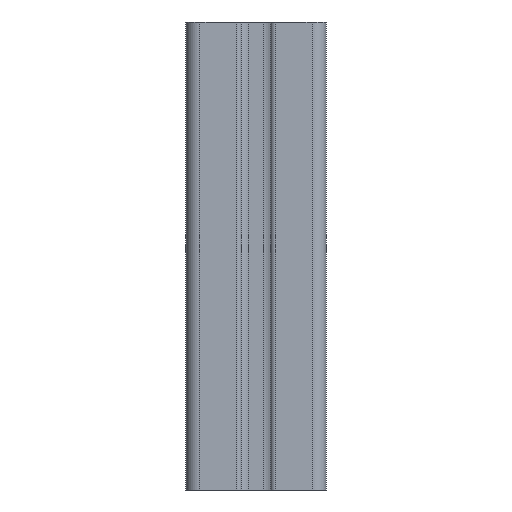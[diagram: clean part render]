
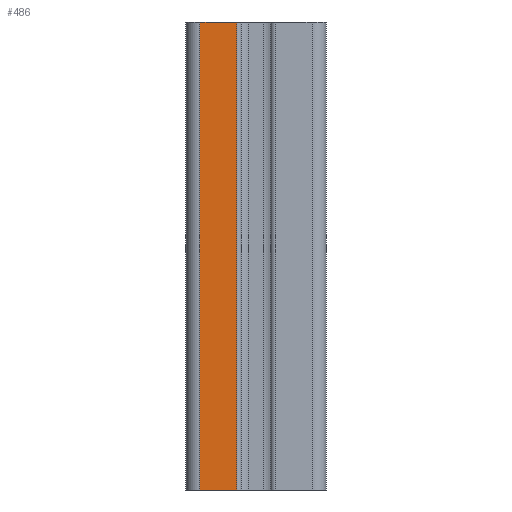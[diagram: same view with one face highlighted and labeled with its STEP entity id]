
A CAD part, front view. The second image highlights one B-rep face of the part: STEP entity #486.
In plain terms, the highlighted planar face has unit normal (0, -1, 0).
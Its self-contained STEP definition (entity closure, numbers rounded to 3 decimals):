
#73 = PLANE('',#74);
#74 = AXIS2_PLACEMENT_3D('',#75,#76,#77);
#75 = CARTESIAN_POINT('',(-4.1,-14.,0.));
#76 = DIRECTION('',(0.,0.,-1.));
#77 = DIRECTION('',(-1.,0.,-0.));
#123 = PLANE('',#124);
#124 = AXIS2_PLACEMENT_3D('',#125,#126,#127);
#125 = CARTESIAN_POINT('',(-4.1,-14.,-100.));
#126 = DIRECTION('',(0.,0.,-1.));
#127 = DIRECTION('',(-1.,0.,-0.));
#381 = VERTEX_POINT('',#382);
#382 = CARTESIAN_POINT('',(-4.1,-15.,0.));
#390 = CYLINDRICAL_SURFACE('',#391,1.);
#391 = AXIS2_PLACEMENT_3D('',#392,#393,#394);
#392 = CARTESIAN_POINT('',(-4.1,-14.,-100.));
#393 = DIRECTION('',(-0.,-0.,1.));
#394 = DIRECTION('',(1.,0.,0.));
#409 = EDGE_CURVE('',#410,#381,#412,.T.);
#410 = VERTEX_POINT('',#411);
#411 = CARTESIAN_POINT('',(-4.1,-15.,-100.));
#412 = SURFACE_CURVE('',#413,(#417,#424),.PCURVE_S1.);
#413 = LINE('',#414,#415);
#414 = CARTESIAN_POINT('',(-4.1,-15.,-100.));
#415 = VECTOR('',#416,1.);
#416 = DIRECTION('',(-0.,-0.,1.));
#417 = PCURVE('',#390,#418);
#418 = DEFINITIONAL_REPRESENTATION('',(#419),#423);
#419 = LINE('',#420,#421);
#420 = CARTESIAN_POINT('',(4.712,0.));
#421 = VECTOR('',#422,1.);
#422 = DIRECTION('',(0.,1.));
#423 = ( GEOMETRIC_REPRESENTATION_CONTEXT(2) 
PARAMETRIC_REPRESENTATION_CONTEXT() REPRESENTATION_CONTEXT('2D SPACE',''
  ) );
#424 = PCURVE('',#425,#430);
#425 = PLANE('',#426);
#426 = AXIS2_PLACEMENT_3D('',#427,#428,#429);
#427 = CARTESIAN_POINT('',(-4.1,-15.,-100.));
#428 = DIRECTION('',(0.,1.,0.));
#429 = DIRECTION('',(0.,-0.,1.));
#430 = DEFINITIONAL_REPRESENTATION('',(#431),#435);
#431 = LINE('',#432,#433);
#432 = CARTESIAN_POINT('',(0.,0.));
#433 = VECTOR('',#434,1.);
#434 = DIRECTION('',(1.,-0.));
#435 = ( GEOMETRIC_REPRESENTATION_CONTEXT(2) 
PARAMETRIC_REPRESENTATION_CONTEXT() REPRESENTATION_CONTEXT('2D SPACE',''
  ) );
#486 = ADVANCED_FACE('',(#487),#425,.F.);
#487 = FACE_BOUND('',#488,.T.);
#488 = EDGE_LOOP('',(#489,#512,#540,#561));
#489 = ORIENTED_EDGE('',*,*,#490,.T.);
#490 = EDGE_CURVE('',#381,#491,#493,.T.);
#491 = VERTEX_POINT('',#492);
#492 = CARTESIAN_POINT('',(-12.,-15.,0.));
#493 = SURFACE_CURVE('',#494,(#498,#505),.PCURVE_S1.);
#494 = LINE('',#495,#496);
#495 = CARTESIAN_POINT('',(-4.1,-15.,0.));
#496 = VECTOR('',#497,1.);
#497 = DIRECTION('',(-1.,0.,0.));
#498 = PCURVE('',#425,#499);
#499 = DEFINITIONAL_REPRESENTATION('',(#500),#504);
#500 = LINE('',#501,#502);
#501 = CARTESIAN_POINT('',(100.,0.));
#502 = VECTOR('',#503,1.);
#503 = DIRECTION('',(0.,-1.));
#504 = ( GEOMETRIC_REPRESENTATION_CONTEXT(2) 
PARAMETRIC_REPRESENTATION_CONTEXT() REPRESENTATION_CONTEXT('2D SPACE',''
  ) );
#505 = PCURVE('',#73,#506);
#506 = DEFINITIONAL_REPRESENTATION('',(#507),#511);
#507 = LINE('',#508,#509);
#508 = CARTESIAN_POINT('',(0.,-1.));
#509 = VECTOR('',#510,1.);
#510 = DIRECTION('',(1.,0.));
#511 = ( GEOMETRIC_REPRESENTATION_CONTEXT(2) 
PARAMETRIC_REPRESENTATION_CONTEXT() REPRESENTATION_CONTEXT('2D SPACE',''
  ) );
#512 = ORIENTED_EDGE('',*,*,#513,.F.);
#513 = EDGE_CURVE('',#514,#491,#516,.T.);
#514 = VERTEX_POINT('',#515);
#515 = CARTESIAN_POINT('',(-12.,-15.,-100.));
#516 = SURFACE_CURVE('',#517,(#521,#528),.PCURVE_S1.);
#517 = LINE('',#518,#519);
#518 = CARTESIAN_POINT('',(-12.,-15.,-100.));
#519 = VECTOR('',#520,1.);
#520 = DIRECTION('',(-0.,-0.,1.));
#521 = PCURVE('',#425,#522);
#522 = DEFINITIONAL_REPRESENTATION('',(#523),#527);
#523 = LINE('',#524,#525);
#524 = CARTESIAN_POINT('',(0.,-7.9));
#525 = VECTOR('',#526,1.);
#526 = DIRECTION('',(1.,-0.));
#527 = ( GEOMETRIC_REPRESENTATION_CONTEXT(2) 
PARAMETRIC_REPRESENTATION_CONTEXT() REPRESENTATION_CONTEXT('2D SPACE',''
  ) );
#528 = PCURVE('',#529,#534);
#529 = CYLINDRICAL_SURFACE('',#530,3.);
#530 = AXIS2_PLACEMENT_3D('',#531,#532,#533);
#531 = CARTESIAN_POINT('',(-12.,-12.,-100.));
#532 = DIRECTION('',(-0.,-0.,1.));
#533 = DIRECTION('',(1.,0.,0.));
#534 = DEFINITIONAL_REPRESENTATION('',(#535),#539);
#535 = LINE('',#536,#537);
#536 = CARTESIAN_POINT('',(4.712,0.));
#537 = VECTOR('',#538,1.);
#538 = DIRECTION('',(0.,1.));
#539 = ( GEOMETRIC_REPRESENTATION_CONTEXT(2) 
PARAMETRIC_REPRESENTATION_CONTEXT() REPRESENTATION_CONTEXT('2D SPACE',''
  ) );
#540 = ORIENTED_EDGE('',*,*,#541,.F.);
#541 = EDGE_CURVE('',#410,#514,#542,.T.);
#542 = SURFACE_CURVE('',#543,(#547,#554),.PCURVE_S1.);
#543 = LINE('',#544,#545);
#544 = CARTESIAN_POINT('',(-4.1,-15.,-100.));
#545 = VECTOR('',#546,1.);
#546 = DIRECTION('',(-1.,0.,0.));
#547 = PCURVE('',#425,#548);
#548 = DEFINITIONAL_REPRESENTATION('',(#549),#553);
#549 = LINE('',#550,#551);
#550 = CARTESIAN_POINT('',(0.,0.));
#551 = VECTOR('',#552,1.);
#552 = DIRECTION('',(0.,-1.));
#553 = ( GEOMETRIC_REPRESENTATION_CONTEXT(2) 
PARAMETRIC_REPRESENTATION_CONTEXT() REPRESENTATION_CONTEXT('2D SPACE',''
  ) );
#554 = PCURVE('',#123,#555);
#555 = DEFINITIONAL_REPRESENTATION('',(#556),#560);
#556 = LINE('',#557,#558);
#557 = CARTESIAN_POINT('',(0.,-1.));
#558 = VECTOR('',#559,1.);
#559 = DIRECTION('',(1.,0.));
#560 = ( GEOMETRIC_REPRESENTATION_CONTEXT(2) 
PARAMETRIC_REPRESENTATION_CONTEXT() REPRESENTATION_CONTEXT('2D SPACE',''
  ) );
#561 = ORIENTED_EDGE('',*,*,#409,.T.);
